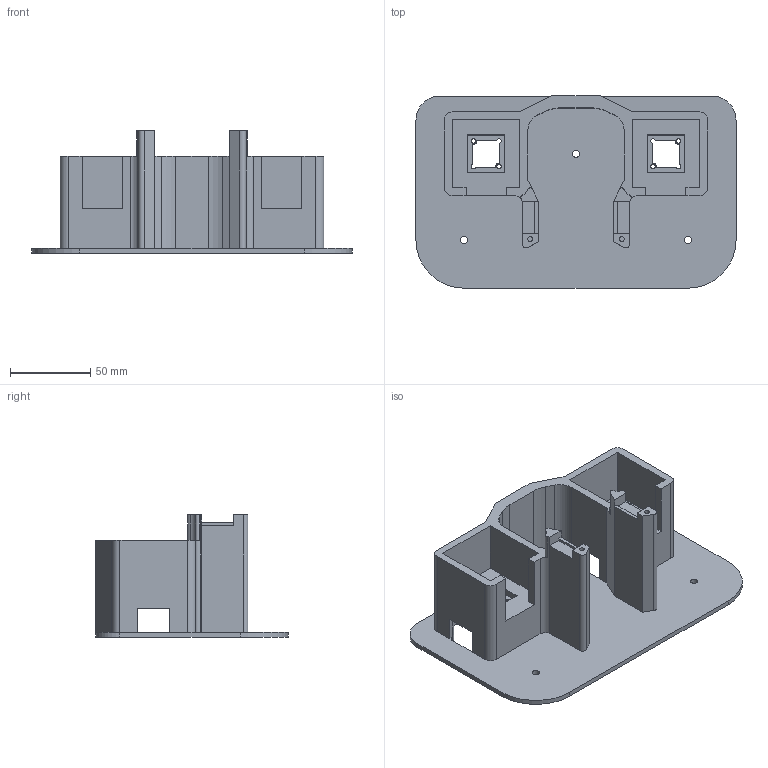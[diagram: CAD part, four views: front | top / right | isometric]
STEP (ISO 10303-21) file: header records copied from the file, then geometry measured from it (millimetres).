
FILE_DESCRIPTION(/* description */ ('STEP AP242 Edition 2','CAx-IF Rec.Pracs.---Representation and Presentation of Product Manufacturing Information (PMI)---4.0---2014-10-13','CAx-IF Rec.Pracs.---3D Tessellated Geometry---0.4---2014-09-14','2;1','CAx-IF Rec.Pracs.---User Defined Attributes---1.5---2016-08-15'),/* implementation_level */ '2;1');
FILE_NAME(/* name */ 'Draw Bot V4 - Updated Design - Base',/* time_stamp */ '2026-04-19T16:23:58Z',/* author */ (''),/* organization */ (''),/* preprocessor_version */ 'ST-DEVELOPER v20',/* originating_system */ 'ONSHAPE BY PTC INC, 1.213',/* authorisation */ ' ');
FILE_SCHEMA (('AP242_MANAGED_MODEL_BASED_3D_ENGINEERING_MIM_LF { 1 0 10303 442 3 1 4 }'));
Length unit declared in the file: millimetre
Products named in the file (1): Base
Bounding box: 200 x 120 x 76.5 mm (x, y, z)
Volume: 254225.7 mm3; surface area: 102682.1 mm2
Topology: 1 solids, 1 shells, 169 faces, 495 edges, 326 vertices
Faces by surface type: plane 106, cylinder 35, bspline 28
Full cylindrical faces by diameter (mm): 2.7 x4, 3 x2, 4.5 x3
Entity records: 5914 total; most frequent: CARTESIAN_POINT 1630, ORIENTED_EDGE 972, DIRECTION 730, EDGE_CURVE 486, VERTEX_POINT 326, LINE 302, VECTOR 302, AXIS2_PLACEMENT_3D 214
